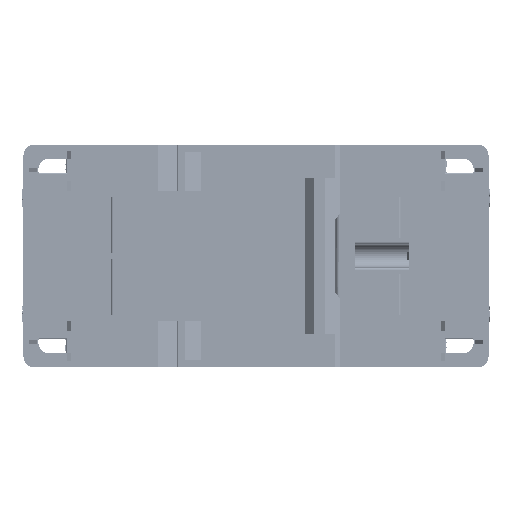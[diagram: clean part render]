
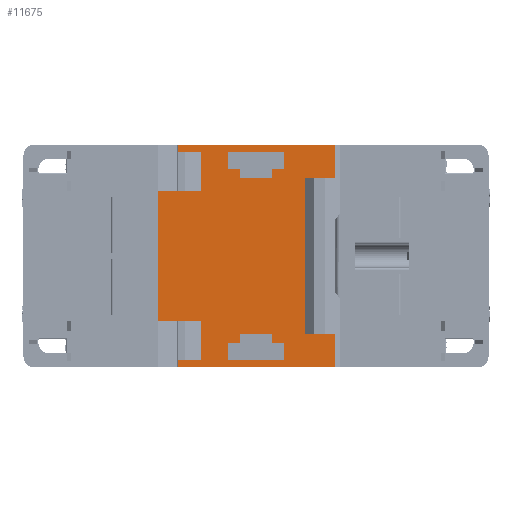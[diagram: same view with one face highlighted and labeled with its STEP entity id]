
A CAD part, front view. The second image highlights one B-rep face of the part: STEP entity #11675.
In plain terms, the highlighted planar face has unit normal (0, -1, 0).
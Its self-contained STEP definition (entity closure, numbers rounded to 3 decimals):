
#2007=FACE_BOUND('',#35106,.T.);
#2008=FACE_BOUND('',#35107,.T.);
#2009=FACE_BOUND('',#35108,.T.);
#11675=ADVANCED_FACE('',(#2007,#2008,#2009),#19900,.F.);
#19900=PLANE('',#170213);
#35106=EDGE_LOOP('',(#52260,#52261,#52262,#52263,#52264,#52265,#52266,#52267,
#52268,#52269,#52270,#52271,#52272,#52273,#52274,#52275));
#35107=EDGE_LOOP('',(#52276,#52277,#52278,#52279,#52280,#52281,#52282,#52283));
#35108=EDGE_LOOP('',(#52284,#52285,#52286,#52287,#52288,#52289,#52290,#52291));
#52260=ORIENTED_EDGE('',*,*,#111408,.F.);
#52261=ORIENTED_EDGE('',*,*,#111409,.F.);
#52262=ORIENTED_EDGE('',*,*,#111372,.F.);
#52263=ORIENTED_EDGE('',*,*,#111401,.T.);
#52264=ORIENTED_EDGE('',*,*,#111410,.F.);
#52265=ORIENTED_EDGE('',*,*,#111411,.F.);
#52266=ORIENTED_EDGE('',*,*,#111412,.T.);
#52267=ORIENTED_EDGE('',*,*,#111413,.T.);
#52268=ORIENTED_EDGE('',*,*,#111414,.F.);
#52269=ORIENTED_EDGE('',*,*,#111415,.F.);
#52270=ORIENTED_EDGE('',*,*,#111416,.T.);
#52271=ORIENTED_EDGE('',*,*,#111404,.T.);
#52272=ORIENTED_EDGE('',*,*,#111417,.F.);
#52273=ORIENTED_EDGE('',*,*,#111418,.T.);
#52274=ORIENTED_EDGE('',*,*,#111419,.F.);
#52275=ORIENTED_EDGE('',*,*,#111420,.T.);
#52276=ORIENTED_EDGE('',*,*,#111421,.F.);
#52277=ORIENTED_EDGE('',*,*,#111422,.F.);
#52278=ORIENTED_EDGE('',*,*,#111423,.F.);
#52279=ORIENTED_EDGE('',*,*,#111424,.F.);
#52280=ORIENTED_EDGE('',*,*,#111425,.F.);
#52281=ORIENTED_EDGE('',*,*,#111426,.F.);
#52282=ORIENTED_EDGE('',*,*,#111427,.F.);
#52283=ORIENTED_EDGE('',*,*,#111428,.F.);
#52284=ORIENTED_EDGE('',*,*,#111429,.F.);
#52285=ORIENTED_EDGE('',*,*,#111430,.F.);
#52286=ORIENTED_EDGE('',*,*,#111431,.F.);
#52287=ORIENTED_EDGE('',*,*,#111432,.F.);
#52288=ORIENTED_EDGE('',*,*,#111433,.F.);
#52289=ORIENTED_EDGE('',*,*,#111434,.F.);
#52290=ORIENTED_EDGE('',*,*,#111435,.F.);
#52291=ORIENTED_EDGE('',*,*,#111436,.F.);
#94151=VERTEX_POINT('',#238693);
#94152=VERTEX_POINT('',#238694);
#94171=VERTEX_POINT('',#238745);
#94174=VERTEX_POINT('',#238752);
#94175=VERTEX_POINT('',#238754);
#94178=VERTEX_POINT('',#238762);
#94179=VERTEX_POINT('',#238763);
#94180=VERTEX_POINT('',#238766);
#94181=VERTEX_POINT('',#238768);
#94182=VERTEX_POINT('',#238770);
#94183=VERTEX_POINT('',#238772);
#94184=VERTEX_POINT('',#238774);
#94185=VERTEX_POINT('',#238776);
#94186=VERTEX_POINT('',#238779);
#94187=VERTEX_POINT('',#238781);
#94188=VERTEX_POINT('',#238783);
#94189=VERTEX_POINT('',#238786);
#94190=VERTEX_POINT('',#238787);
#94191=VERTEX_POINT('',#238789);
#94192=VERTEX_POINT('',#238791);
#94193=VERTEX_POINT('',#238793);
#94194=VERTEX_POINT('',#238795);
#94195=VERTEX_POINT('',#238797);
#94196=VERTEX_POINT('',#238799);
#94197=VERTEX_POINT('',#238802);
#94198=VERTEX_POINT('',#238803);
#94199=VERTEX_POINT('',#238805);
#94200=VERTEX_POINT('',#238807);
#94201=VERTEX_POINT('',#238809);
#94202=VERTEX_POINT('',#238811);
#94203=VERTEX_POINT('',#238813);
#94204=VERTEX_POINT('',#238815);
#111372=EDGE_CURVE('',#94151,#94152,#134109,.T.);
#111401=EDGE_CURVE('',#94151,#94171,#134135,.T.);
#111404=EDGE_CURVE('',#94175,#94174,#134138,.T.);
#111408=EDGE_CURVE('',#94178,#94179,#134142,.T.);
#111409=EDGE_CURVE('',#94152,#94178,#134143,.T.);
#111410=EDGE_CURVE('',#94180,#94171,#134144,.T.);
#111411=EDGE_CURVE('',#94181,#94180,#134145,.T.);
#111412=EDGE_CURVE('',#94181,#94182,#134146,.T.);
#111413=EDGE_CURVE('',#94182,#94183,#134147,.T.);
#111414=EDGE_CURVE('',#94184,#94183,#134148,.T.);
#111415=EDGE_CURVE('',#94185,#94184,#134149,.T.);
#111416=EDGE_CURVE('',#94185,#94175,#134150,.T.);
#111417=EDGE_CURVE('',#94186,#94174,#134151,.T.);
#111418=EDGE_CURVE('',#94186,#94187,#134152,.T.);
#111419=EDGE_CURVE('',#94188,#94187,#134153,.T.);
#111420=EDGE_CURVE('',#94188,#94179,#134154,.T.);
#111421=EDGE_CURVE('',#94189,#94190,#134155,.T.);
#111422=EDGE_CURVE('',#94191,#94189,#134156,.T.);
#111423=EDGE_CURVE('',#94192,#94191,#134157,.T.);
#111424=EDGE_CURVE('',#94193,#94192,#134158,.T.);
#111425=EDGE_CURVE('',#94194,#94193,#134159,.T.);
#111426=EDGE_CURVE('',#94195,#94194,#134160,.T.);
#111427=EDGE_CURVE('',#94196,#94195,#134161,.T.);
#111428=EDGE_CURVE('',#94190,#94196,#134162,.T.);
#111429=EDGE_CURVE('',#94197,#94198,#134163,.T.);
#111430=EDGE_CURVE('',#94199,#94197,#134164,.T.);
#111431=EDGE_CURVE('',#94200,#94199,#134165,.T.);
#111432=EDGE_CURVE('',#94201,#94200,#134166,.T.);
#111433=EDGE_CURVE('',#94202,#94201,#134167,.T.);
#111434=EDGE_CURVE('',#94203,#94202,#134168,.T.);
#111435=EDGE_CURVE('',#94204,#94203,#134169,.T.);
#111436=EDGE_CURVE('',#94198,#94204,#134170,.T.);
#134109=LINE('',#238692,#152925);
#134135=LINE('',#238746,#152951);
#134138=LINE('',#238753,#152954);
#134142=LINE('',#238761,#152958);
#134143=LINE('',#238764,#152959);
#134144=LINE('',#238765,#152960);
#134145=LINE('',#238767,#152961);
#134146=LINE('',#238769,#152962);
#134147=LINE('',#238771,#152963);
#134148=LINE('',#238773,#152964);
#134149=LINE('',#238775,#152965);
#134150=LINE('',#238777,#152966);
#134151=LINE('',#238778,#152967);
#134152=LINE('',#238780,#152968);
#134153=LINE('',#238782,#152969);
#134154=LINE('',#238784,#152970);
#134155=LINE('',#238785,#152971);
#134156=LINE('',#238788,#152972);
#134157=LINE('',#238790,#152973);
#134158=LINE('',#238792,#152974);
#134159=LINE('',#238794,#152975);
#134160=LINE('',#238796,#152976);
#134161=LINE('',#238798,#152977);
#134162=LINE('',#238800,#152978);
#134163=LINE('',#238801,#152979);
#134164=LINE('',#238804,#152980);
#134165=LINE('',#238806,#152981);
#134166=LINE('',#238808,#152982);
#134167=LINE('',#238810,#152983);
#134168=LINE('',#238812,#152984);
#134169=LINE('',#238814,#152985);
#134170=LINE('',#238816,#152986);
#152925=VECTOR('',#189072,1.);
#152951=VECTOR('',#189112,1.);
#152954=VECTOR('',#189117,1.);
#152958=VECTOR('',#189123,1.);
#152959=VECTOR('',#189124,1.);
#152960=VECTOR('',#189125,1.);
#152961=VECTOR('',#189126,1.);
#152962=VECTOR('',#189127,1.);
#152963=VECTOR('',#189128,1.);
#152964=VECTOR('',#189129,1.);
#152965=VECTOR('',#189130,1.);
#152966=VECTOR('',#189131,1.);
#152967=VECTOR('',#189132,1.);
#152968=VECTOR('',#189133,1.);
#152969=VECTOR('',#189134,1.);
#152970=VECTOR('',#189135,1.);
#152971=VECTOR('',#189136,1.);
#152972=VECTOR('',#189137,1.);
#152973=VECTOR('',#189138,1.);
#152974=VECTOR('',#189139,1.);
#152975=VECTOR('',#189140,1.);
#152976=VECTOR('',#189141,1.);
#152977=VECTOR('',#189142,1.);
#152978=VECTOR('',#189143,1.);
#152979=VECTOR('',#189144,1.);
#152980=VECTOR('',#189145,1.);
#152981=VECTOR('',#189146,1.);
#152982=VECTOR('',#189147,1.);
#152983=VECTOR('',#189148,1.);
#152984=VECTOR('',#189149,1.);
#152985=VECTOR('',#189150,1.);
#152986=VECTOR('',#189151,1.);
#170213=AXIS2_PLACEMENT_3D('',#238817,#189152,#189153);
#189072=DIRECTION('',(1.,0.,0.));
#189112=DIRECTION('',(0.,0.,-1.));
#189117=DIRECTION('',(0.,0.,-1.));
#189123=DIRECTION('',(-1.,0.,0.));
#189124=DIRECTION('',(0.,0.,-1.));
#189125=DIRECTION('',(-1.,0.,0.));
#189126=DIRECTION('',(0.,0.,1.));
#189127=DIRECTION('',(-1.,0.,0.));
#189128=DIRECTION('',(0.,0.,-1.));
#189129=DIRECTION('',(-1.,0.,0.));
#189130=DIRECTION('',(0.,0.,1.));
#189131=DIRECTION('',(-1.,0.,0.));
#189132=DIRECTION('',(-1.,0.,0.));
#189133=DIRECTION('',(0.,0.,1.));
#189134=DIRECTION('',(1.,0.,0.));
#189135=DIRECTION('',(0.,0.,1.));
#189136=DIRECTION('',(0.,0.,-1.));
#189137=DIRECTION('',(-1.,0.,0.));
#189138=DIRECTION('',(0.,0.,-1.));
#189139=DIRECTION('',(-1.,0.,0.));
#189140=DIRECTION('',(0.,0.,1.));
#189141=DIRECTION('',(-1.,0.,0.));
#189142=DIRECTION('',(0.,0.,1.));
#189143=DIRECTION('',(1.,0.,0.));
#189144=DIRECTION('',(-1.,0.,0.));
#189145=DIRECTION('',(0.,0.,1.));
#189146=DIRECTION('',(1.,0.,0.));
#189147=DIRECTION('',(0.,0.,1.));
#189148=DIRECTION('',(1.,0.,0.));
#189149=DIRECTION('',(0.,0.,-1.));
#189150=DIRECTION('',(1.,0.,0.));
#189151=DIRECTION('',(0.,0.,-1.));
#189152=DIRECTION('',(0.,1.,0.));
#189153=DIRECTION('',(-1.,0.,0.));
#238692=CARTESIAN_POINT('',(-17.3,-41.5,22.5));
#238693=CARTESIAN_POINT('',(-17.3,-41.5,22.5));
#238694=CARTESIAN_POINT('',(16.1,-41.5,22.5));
#238745=CARTESIAN_POINT('',(-17.3,-41.5,21.1));
#238746=CARTESIAN_POINT('',(-17.3,-41.5,22.5));
#238752=CARTESIAN_POINT('',(-17.3,-41.5,-22.5));
#238753=CARTESIAN_POINT('',(-17.3,-41.5,-21.1));
#238754=CARTESIAN_POINT('',(-17.3,-41.5,-21.1));
#238761=CARTESIAN_POINT('',(16.1,-41.5,15.9));
#238762=CARTESIAN_POINT('',(16.1,-41.5,15.9));
#238763=CARTESIAN_POINT('',(10.,-41.5,15.9));
#238764=CARTESIAN_POINT('',(16.1,-41.5,22.5));
#238765=CARTESIAN_POINT('',(-11.1,-41.5,21.1));
#238766=CARTESIAN_POINT('',(-11.1,-41.5,21.1));
#238767=CARTESIAN_POINT('',(-11.1,-41.5,13.25));
#238768=CARTESIAN_POINT('',(-11.1,-41.5,13.25));
#238769=CARTESIAN_POINT('',(-11.1,-41.5,13.25));
#238770=CARTESIAN_POINT('',(-19.8,-41.5,13.25));
#238771=CARTESIAN_POINT('',(-19.8,-41.5,13.25));
#238772=CARTESIAN_POINT('',(-19.8,-41.5,-13.25));
#238773=CARTESIAN_POINT('',(-11.1,-41.5,-13.25));
#238774=CARTESIAN_POINT('',(-11.1,-41.5,-13.25));
#238775=CARTESIAN_POINT('',(-11.1,-41.5,-21.1));
#238776=CARTESIAN_POINT('',(-11.1,-41.5,-21.1));
#238777=CARTESIAN_POINT('',(-11.1,-41.5,-21.1));
#238778=CARTESIAN_POINT('',(16.1,-41.5,-22.5));
#238779=CARTESIAN_POINT('',(16.1,-41.5,-22.5));
#238780=CARTESIAN_POINT('',(16.1,-41.5,-22.5));
#238781=CARTESIAN_POINT('',(16.1,-41.5,-15.9));
#238782=CARTESIAN_POINT('',(10.,-41.5,-15.9));
#238783=CARTESIAN_POINT('',(10.,-41.5,-15.9));
#238784=CARTESIAN_POINT('',(10.,-41.5,-15.9));
#238785=CARTESIAN_POINT('',(-5.75,-41.5,-17.7));
#238786=CARTESIAN_POINT('',(-5.75,-41.5,-17.7));
#238787=CARTESIAN_POINT('',(-5.75,-41.5,-21.1));
#238788=CARTESIAN_POINT('',(-3.25,-41.5,-17.7));
#238789=CARTESIAN_POINT('',(-3.25,-41.5,-17.7));
#238790=CARTESIAN_POINT('',(-3.25,-41.5,-15.9));
#238791=CARTESIAN_POINT('',(-3.25,-41.5,-15.9));
#238792=CARTESIAN_POINT('',(3.25,-41.5,-15.9));
#238793=CARTESIAN_POINT('',(3.25,-41.5,-15.9));
#238794=CARTESIAN_POINT('',(3.25,-41.5,-17.7));
#238795=CARTESIAN_POINT('',(3.25,-41.5,-17.7));
#238796=CARTESIAN_POINT('',(5.75,-41.5,-17.7));
#238797=CARTESIAN_POINT('',(5.75,-41.5,-17.7));
#238798=CARTESIAN_POINT('',(5.75,-41.5,-21.1));
#238799=CARTESIAN_POINT('',(5.75,-41.5,-21.1));
#238800=CARTESIAN_POINT('',(-5.75,-41.5,-21.1));
#238801=CARTESIAN_POINT('',(5.75,-41.5,21.1));
#238802=CARTESIAN_POINT('',(5.75,-41.5,21.1));
#238803=CARTESIAN_POINT('',(-5.75,-41.5,21.1));
#238804=CARTESIAN_POINT('',(5.75,-41.5,17.7));
#238805=CARTESIAN_POINT('',(5.75,-41.5,17.7));
#238806=CARTESIAN_POINT('',(3.25,-41.5,17.7));
#238807=CARTESIAN_POINT('',(3.25,-41.5,17.7));
#238808=CARTESIAN_POINT('',(3.25,-41.5,15.9));
#238809=CARTESIAN_POINT('',(3.25,-41.5,15.9));
#238810=CARTESIAN_POINT('',(-3.25,-41.5,15.9));
#238811=CARTESIAN_POINT('',(-3.25,-41.5,15.9));
#238812=CARTESIAN_POINT('',(-3.25,-41.5,17.7));
#238813=CARTESIAN_POINT('',(-3.25,-41.5,17.7));
#238814=CARTESIAN_POINT('',(-5.75,-41.5,17.7));
#238815=CARTESIAN_POINT('',(-5.75,-41.5,17.7));
#238816=CARTESIAN_POINT('',(-5.75,-41.5,21.1));
#238817=CARTESIAN_POINT('',(15.6,-41.5,-22.5));
